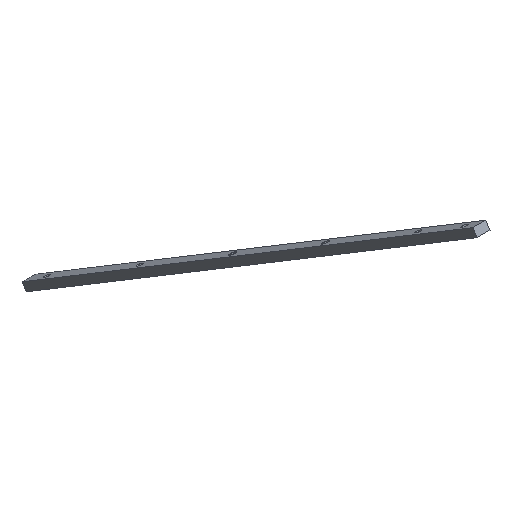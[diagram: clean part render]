
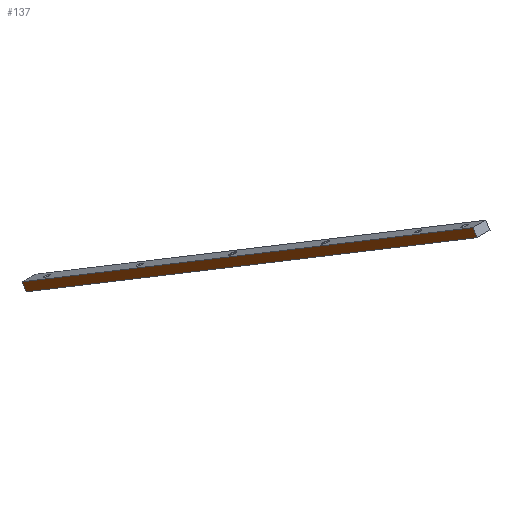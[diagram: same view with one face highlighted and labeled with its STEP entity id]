
A CAD part, isometric view. The second image highlights one B-rep face of the part: STEP entity #137.
In plain terms, the highlighted planar face has unit normal (-1, 0, 0).
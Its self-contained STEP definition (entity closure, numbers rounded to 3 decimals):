
#21 = EDGE_CURVE('',#22,#24,#26,.T.);
#22 = VERTEX_POINT('',#23);
#23 = CARTESIAN_POINT('',(315.,-479.711,1613.083));
#24 = VERTEX_POINT('',#25);
#25 = CARTESIAN_POINT('',(315.,-489.015,1597.674));
#26 = SURFACE_CURVE('',#27,(#31,#43),.PCURVE_S1.);
#27 = LINE('',#28,#29);
#28 = CARTESIAN_POINT('',(315.,-479.711,1613.083));
#29 = VECTOR('',#30,1.);
#30 = DIRECTION('',(0.,-0.517,-0.856));
#31 = PCURVE('',#32,#37);
#32 = PLANE('',#33);
#33 = AXIS2_PLACEMENT_3D('',#34,#35,#36);
#34 = CARTESIAN_POINT('',(315.,-479.711,1613.083));
#35 = DIRECTION('',(0.,-0.856,0.517));
#36 = DIRECTION('',(1.,0.,0.));
#37 = DEFINITIONAL_REPRESENTATION('',(#38),#42);
#38 = LINE('',#39,#40);
#39 = CARTESIAN_POINT('',(0.,0.));
#40 = VECTOR('',#41,1.);
#41 = DIRECTION('',(0.,-1.));
#42 = ( GEOMETRIC_REPRESENTATION_CONTEXT(2) 
PARAMETRIC_REPRESENTATION_CONTEXT() REPRESENTATION_CONTEXT('2D SPACE',''
  ) );
#43 = PCURVE('',#44,#49);
#44 = PLANE('',#45);
#45 = AXIS2_PLACEMENT_3D('',#46,#47,#48);
#46 = CARTESIAN_POINT('',(315.,-1519.829,2241.079));
#47 = DIRECTION('',(1.,0.,0.));
#48 = DIRECTION('',(0.,0.856,-0.517));
#49 = DEFINITIONAL_REPRESENTATION('',(#50),#54);
#50 = LINE('',#51,#52);
#51 = CARTESIAN_POINT('',(1215.,0.));
#52 = VECTOR('',#53,1.);
#53 = DIRECTION('',(0.,-1.));
#54 = ( GEOMETRIC_REPRESENTATION_CONTEXT(2) 
PARAMETRIC_REPRESENTATION_CONTEXT() REPRESENTATION_CONTEXT('2D SPACE',''
  ) );
#72 = PLANE('',#73);
#73 = AXIS2_PLACEMENT_3D('',#74,#75,#76);
#74 = CARTESIAN_POINT('',(330.,-1009.074,1911.672));
#75 = DIRECTION('',(0.,-0.517,-0.856)
  );
#76 = DIRECTION('',(0.,-0.856,0.517));
#126 = PLANE('',#127);
#127 = AXIS2_PLACEMENT_3D('',#128,#129,#130);
#128 = CARTESIAN_POINT('',(330.,-999.77,1927.081));
#129 = DIRECTION('',(0.,-0.517,-0.856
    ));
#130 = DIRECTION('',(0.,-0.856,0.517));
#137 = ADVANCED_FACE('',(#138),#44,.F.);
#138 = FACE_BOUND('',#139,.F.);
#139 = EDGE_LOOP('',(#140,#170,#191,#192));
#140 = ORIENTED_EDGE('',*,*,#141,.T.);
#141 = EDGE_CURVE('',#142,#144,#146,.T.);
#142 = VERTEX_POINT('',#143);
#143 = CARTESIAN_POINT('',(315.,-1519.829,2241.079)
  );
#144 = VERTEX_POINT('',#145);
#145 = CARTESIAN_POINT('',(315.,-1529.133,2225.67)
  );
#146 = SURFACE_CURVE('',#147,(#151,#158),.PCURVE_S1.);
#147 = LINE('',#148,#149);
#148 = CARTESIAN_POINT('',(315.,-1519.829,2241.079)
  );
#149 = VECTOR('',#150,1.);
#150 = DIRECTION('',(0.,-0.517,-0.856));
#151 = PCURVE('',#44,#152);
#152 = DEFINITIONAL_REPRESENTATION('',(#153),#157);
#153 = LINE('',#154,#155);
#154 = CARTESIAN_POINT('',(0.,0.));
#155 = VECTOR('',#156,1.);
#156 = DIRECTION('',(0.,-1.));
#157 = ( GEOMETRIC_REPRESENTATION_CONTEXT(2) 
PARAMETRIC_REPRESENTATION_CONTEXT() REPRESENTATION_CONTEXT('2D SPACE',''
  ) );
#158 = PCURVE('',#159,#164);
#159 = PLANE('',#160);
#160 = AXIS2_PLACEMENT_3D('',#161,#162,#163);
#161 = CARTESIAN_POINT('',(345.,-1519.829,2241.079)
  );
#162 = DIRECTION('',(0.,0.856,-0.517));
#163 = DIRECTION('',(-1.,0.,0.));
#164 = DEFINITIONAL_REPRESENTATION('',(#165),#169);
#165 = LINE('',#166,#167);
#166 = CARTESIAN_POINT('',(30.,0.));
#167 = VECTOR('',#168,1.);
#168 = DIRECTION('',(-0.,-1.));
#169 = ( GEOMETRIC_REPRESENTATION_CONTEXT(2) 
PARAMETRIC_REPRESENTATION_CONTEXT() REPRESENTATION_CONTEXT('2D SPACE',''
  ) );
#170 = ORIENTED_EDGE('',*,*,#171,.T.);
#171 = EDGE_CURVE('',#144,#24,#172,.T.);
#172 = SURFACE_CURVE('',#173,(#177,#184),.PCURVE_S1.);
#173 = LINE('',#174,#175);
#174 = CARTESIAN_POINT('',(315.,-1529.133,2225.67)
  );
#175 = VECTOR('',#176,1.);
#176 = DIRECTION('',(0.,0.856,-0.517));
#177 = PCURVE('',#44,#178);
#178 = DEFINITIONAL_REPRESENTATION('',(#179),#183);
#179 = LINE('',#180,#181);
#180 = CARTESIAN_POINT('',(0.,-18.));
#181 = VECTOR('',#182,1.);
#182 = DIRECTION('',(1.,0.));
#183 = ( GEOMETRIC_REPRESENTATION_CONTEXT(2) 
PARAMETRIC_REPRESENTATION_CONTEXT() REPRESENTATION_CONTEXT('2D SPACE',''
  ) );
#184 = PCURVE('',#72,#185);
#185 = DEFINITIONAL_REPRESENTATION('',(#186),#190);
#186 = LINE('',#187,#188);
#187 = CARTESIAN_POINT('',(607.5,15.));
#188 = VECTOR('',#189,1.);
#189 = DIRECTION('',(-1.,0.));
#190 = ( GEOMETRIC_REPRESENTATION_CONTEXT(2) 
PARAMETRIC_REPRESENTATION_CONTEXT() REPRESENTATION_CONTEXT('2D SPACE',''
  ) );
#191 = ORIENTED_EDGE('',*,*,#21,.F.);
#192 = ORIENTED_EDGE('',*,*,#193,.F.);
#193 = EDGE_CURVE('',#142,#22,#194,.T.);
#194 = SURFACE_CURVE('',#195,(#199,#206),.PCURVE_S1.);
#195 = LINE('',#196,#197);
#196 = CARTESIAN_POINT('',(315.,-1519.829,2241.079)
  );
#197 = VECTOR('',#198,1.);
#198 = DIRECTION('',(0.,0.856,-0.517));
#199 = PCURVE('',#44,#200);
#200 = DEFINITIONAL_REPRESENTATION('',(#201),#205);
#201 = LINE('',#202,#203);
#202 = CARTESIAN_POINT('',(0.,0.));
#203 = VECTOR('',#204,1.);
#204 = DIRECTION('',(1.,0.));
#205 = ( GEOMETRIC_REPRESENTATION_CONTEXT(2) 
PARAMETRIC_REPRESENTATION_CONTEXT() REPRESENTATION_CONTEXT('2D SPACE',''
  ) );
#206 = PCURVE('',#126,#207);
#207 = DEFINITIONAL_REPRESENTATION('',(#208),#212);
#208 = LINE('',#209,#210);
#209 = CARTESIAN_POINT('',(607.5,15.));
#210 = VECTOR('',#211,1.);
#211 = DIRECTION('',(-1.,0.));
#212 = ( GEOMETRIC_REPRESENTATION_CONTEXT(2) 
PARAMETRIC_REPRESENTATION_CONTEXT() REPRESENTATION_CONTEXT('2D SPACE',''
  ) );
